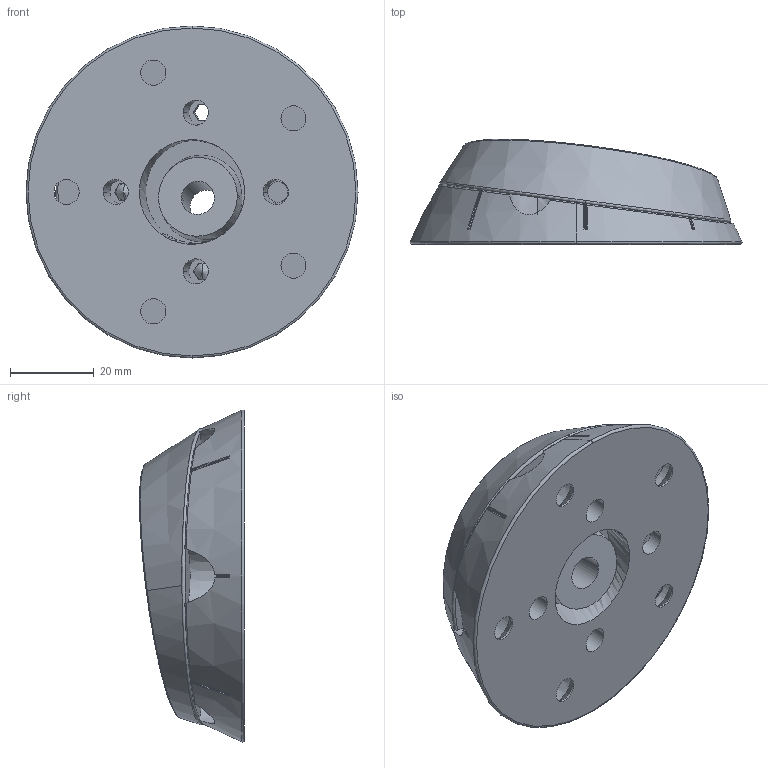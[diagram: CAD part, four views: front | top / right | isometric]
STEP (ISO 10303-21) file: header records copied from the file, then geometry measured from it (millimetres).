
FILE_DESCRIPTION (( 'STEP AP203' ), '1' );
FILE_NAME ('06.11.130-0 Twistn Turn 10dg_Ext. faces.STEP', '2021-03-08T11:02:38', ( '' ), ( '' ), 'SwSTEP 2.0', 'SolidWorks 2020', '' );
FILE_SCHEMA (( 'CONFIG_CONTROL_DESIGN' ));
Length unit declared in the file: millimetre
Products named in the file (1): 06.11.130-0 Twistn Turn 10dg_Ext. faces
Bounding box: 79.43 x 25.11 x 79.43 mm (x, y, z)
Surface area: 24194.4 mm2 (no closed solid volume)
Topology: 0 solids, 7 shells, 280 faces, 790 edges, 501 vertices
Faces by surface type: bspline 92, cone 71, plane 57, cylinder 55, torus 5
Entity records: 12539 total; most frequent: CARTESIAN_POINT 6116, ORIENTED_EDGE 1465, DIRECTION 1125, EDGE_CURVE 784, VERTEX_POINT 501, AXIS2_PLACEMENT_3D 445, EDGE_LOOP 323, ADVANCED_FACE 280
